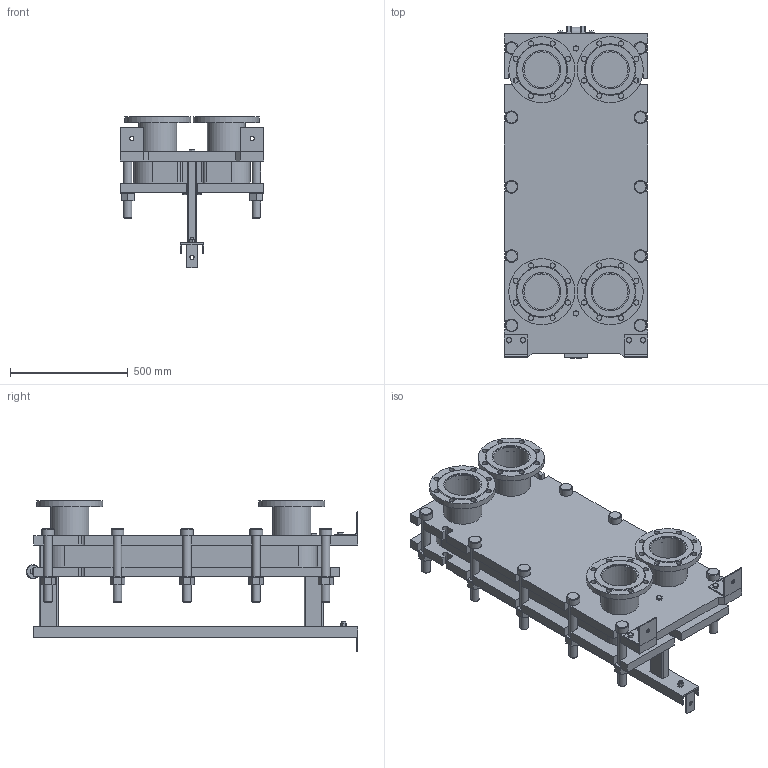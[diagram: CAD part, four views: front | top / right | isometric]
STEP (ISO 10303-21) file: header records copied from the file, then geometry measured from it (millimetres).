
FILE_DESCRIPTION(/* description */ (''),/* implementation_level */ '2;1');
FILE_NAME(/* name */ 'C:\Users\zhuro\Desktop\ENCO\TO\ЭН-041\ЭН-0,5-041-27-1.stp',/* time_stamp */ '2022-06-06T10:50:27+03:00',/* author */ ('zhuro'),/* organization */ (''),/* preprocessor_version */ 'ST-DEVELOPER v18.1',/* originating_system */ 'Autodesk Inventor 2022',/* authorisation */ '');
FILE_SCHEMA (('AUTOMOTIVE_DESIGN { 1 0 10303 214 3 1 1 }'));
Length unit declared in the file: millimetre
Products named in the file (1): ЭН-0,5-041-27-1
Bounding box: 610 x 1406.5 x 642.5 mm (x, y, z)
Volume: 127734287.6 mm3; surface area: 7414921 mm2
Topology: 52 solids, 52 shells, 711 faces, 1696 edges, 1094 vertices
Faces by surface type: plane 487, cylinder 177, cone 41, torus 6
Full cylindrical faces by diameter (mm): 8 x4, 10 x2, 16 x8, 18 x3, 22 x32, 36 x24, 50 x1, 54 x10, 60 x12, 151 x4, 161 x8, 280 x4
Entity records: 22667 total; most frequent: CARTESIAN_POINT 5230, DIRECTION 3644, ORIENTED_EDGE 3392, EDGE_CURVE 1696, AXIS2_PLACEMENT_3D 1272, LINE 1100, VECTOR 1100, VERTEX_POINT 1094
